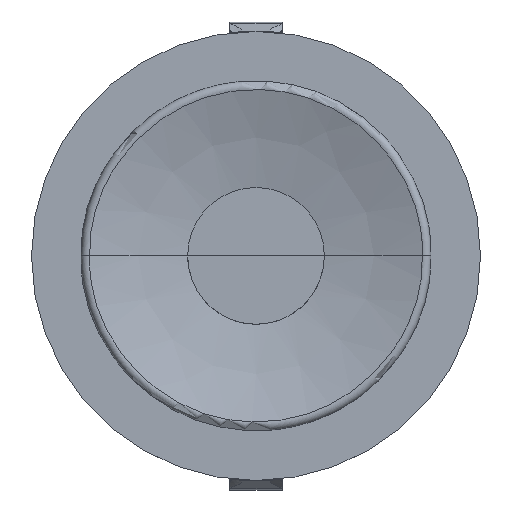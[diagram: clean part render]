
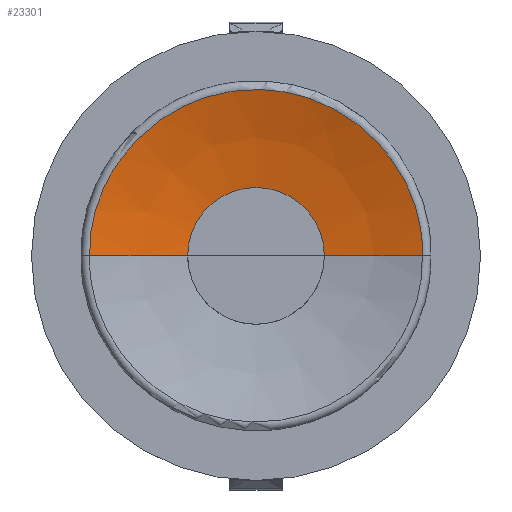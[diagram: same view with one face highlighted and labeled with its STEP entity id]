
A CAD part, top view. The second image highlights one B-rep face of the part: STEP entity #23301.
In plain terms, the highlighted free-form (B-spline) face has degree [2, 2] with [3, 5] control points.
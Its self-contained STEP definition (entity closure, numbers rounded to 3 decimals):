
#48=(
BOUNDED_SURFACE()
B_SPLINE_SURFACE(2,2,((#41128,#41129,#41130,#41131,#41132),(#41133,#41134,
#41135,#41136,#41137),(#41138,#41139,#41140,#41141,#41142)),
 .UNSPECIFIED.,.F.,.F.,.F.)
B_SPLINE_SURFACE_WITH_KNOTS((3,3),(3,2,3),(-1.43,-1.225),
(-3.142,-1.571,0.),
 .UNSPECIFIED.)
GEOMETRIC_REPRESENTATION_ITEM()
RATIONAL_B_SPLINE_SURFACE(((1.,0.707,1.,0.707,1.),
(0.995,0.703,0.995,0.703,
0.995),(1.,0.707,1.,0.707,1.)))
REPRESENTATION_ITEM('')
SURFACE()
);
#185=B_SPLINE_CURVE_WITH_KNOTS('',3,(#41145,#41146,#41147,#41148),
 .UNSPECIFIED.,.F.,.F.,(4,4),(0.,0.2),.UNSPECIFIED.);
#186=B_SPLINE_CURVE_WITH_KNOTS('',3,(#41149,#41150,#41151,#41152,#41153),
 .UNSPECIFIED.,.F.,.F.,(4,1,4),(0.,0.5,1.),.UNSPECIFIED.);
#187=B_SPLINE_CURVE_WITH_KNOTS('',3,(#41155,#41156,#41157,#41158,#41159),
 .UNSPECIFIED.,.F.,.F.,(4,1,4),(0.,0.5,1.),.UNSPECIFIED.);
#188=B_SPLINE_CURVE_WITH_KNOTS('',3,(#41161,#41162,#41163,#41164),
 .UNSPECIFIED.,.F.,.F.,(4,4),(0.8,1.),.UNSPECIFIED.);
#189=B_SPLINE_CURVE_WITH_KNOTS('',3,(#41166,#41167,#41168,#41169),
 .UNSPECIFIED.,.F.,.F.,(4,4),(0.6,0.8),.UNSPECIFIED.);
#190=B_SPLINE_CURVE_WITH_KNOTS('',3,(#41171,#41172,#41173,#41174),
 .UNSPECIFIED.,.F.,.F.,(4,4),(0.4,0.6),.UNSPECIFIED.);
#191=B_SPLINE_CURVE_WITH_KNOTS('',3,(#41175,#41176,#41177,#41178),
 .UNSPECIFIED.,.F.,.F.,(4,4),(0.2,0.4),.UNSPECIFIED.);
#2826=FACE_OUTER_BOUND('',#4550,.T.);
#4550=EDGE_LOOP('',(#19565,#19566,#19567,#19568,#19569,#19570,#19571,#19572));
#6254=CIRCLE('',#26345,10.502);
#10842=VERTEX_POINT('',#41099);
#10843=VERTEX_POINT('',#41100);
#10844=VERTEX_POINT('',#41143);
#10845=VERTEX_POINT('',#41144);
#10846=VERTEX_POINT('',#41154);
#10847=VERTEX_POINT('',#41160);
#10848=VERTEX_POINT('',#41165);
#10849=VERTEX_POINT('',#41170);
#13889=EDGE_CURVE('',#10842,#10843,#6254,.T.);
#13893=EDGE_CURVE('',#10844,#10845,#185,.T.);
#13894=EDGE_CURVE('',#10842,#10844,#186,.T.);
#13895=EDGE_CURVE('',#10846,#10843,#187,.T.);
#13896=EDGE_CURVE('',#10847,#10846,#188,.T.);
#13897=EDGE_CURVE('',#10848,#10847,#189,.T.);
#13898=EDGE_CURVE('',#10849,#10848,#190,.T.);
#13899=EDGE_CURVE('',#10845,#10849,#191,.T.);
#19565=ORIENTED_EDGE('',*,*,#13893,.F.);
#19566=ORIENTED_EDGE('',*,*,#13894,.F.);
#19567=ORIENTED_EDGE('',*,*,#13889,.T.);
#19568=ORIENTED_EDGE('',*,*,#13895,.F.);
#19569=ORIENTED_EDGE('',*,*,#13896,.F.);
#19570=ORIENTED_EDGE('',*,*,#13897,.F.);
#19571=ORIENTED_EDGE('',*,*,#13898,.F.);
#19572=ORIENTED_EDGE('',*,*,#13899,.F.);
#23301=ADVANCED_FACE('',(#2826),#48,.T.);
#26345=AXIS2_PLACEMENT_3D('',#41101,#33233,#33234);
#33233=DIRECTION('center_axis',(0.,0.,
-1.));
#33234=DIRECTION('ref_axis',(1.,0.,0.));
#41099=CARTESIAN_POINT('',(10.502,0.,10.332));
#41100=CARTESIAN_POINT('',(-10.502,0.,10.332));
#41101=CARTESIAN_POINT('Origin',(0.,0.,
10.332));
#41128=CARTESIAN_POINT('Ctrl Pts',(-10.502,0.,
10.332));
#41129=CARTESIAN_POINT('Ctrl Pts',(-10.502,-10.502,10.332));
#41130=CARTESIAN_POINT('Ctrl Pts',(0.,-10.502,
10.332));
#41131=CARTESIAN_POINT('Ctrl Pts',(10.502,-10.502,10.332));
#41132=CARTESIAN_POINT('Ctrl Pts',(10.502,0.,
10.332));
#41133=CARTESIAN_POINT('Ctrl Pts',(-18.268,0.,
11.432));
#41134=CARTESIAN_POINT('Ctrl Pts',(-18.268,-18.268,
11.432));
#41135=CARTESIAN_POINT('Ctrl Pts',(0.,-18.268,
11.432));
#41136=CARTESIAN_POINT('Ctrl Pts',(18.268,-18.268,11.432));
#41137=CARTESIAN_POINT('Ctrl Pts',(18.268,0.,
11.432));
#41138=CARTESIAN_POINT('Ctrl Pts',(-25.647,0.,
14.092));
#41139=CARTESIAN_POINT('Ctrl Pts',(-25.647,-25.647,14.092));
#41140=CARTESIAN_POINT('Ctrl Pts',(0.,-25.647,
14.092));
#41141=CARTESIAN_POINT('Ctrl Pts',(25.647,-25.647,14.092));
#41142=CARTESIAN_POINT('Ctrl Pts',(25.647,0.,
14.092));
#41143=CARTESIAN_POINT('',(25.547,0.,14.056));
#41144=CARTESIAN_POINT('',(20.668,-15.016,14.056));
#41145=CARTESIAN_POINT('Ctrl Pts',(25.547,0.,
14.056));
#41146=CARTESIAN_POINT('Ctrl Pts',(25.736,-5.489,14.056));
#41147=CARTESIAN_POINT('Ctrl Pts',(23.86,-10.73,14.056));
#41148=CARTESIAN_POINT('Ctrl Pts',(20.668,-15.016,14.056));
#41149=CARTESIAN_POINT('Ctrl Pts',(10.502,0.,
10.332));
#41150=CARTESIAN_POINT('Ctrl Pts',(13.073,0.,
10.697));
#41151=CARTESIAN_POINT('Ctrl Pts',(18.151,0.,
11.682));
#41152=CARTESIAN_POINT('Ctrl Pts',(23.103,0.,
13.18));
#41153=CARTESIAN_POINT('Ctrl Pts',(25.547,0.,
14.056));
#41154=CARTESIAN_POINT('',(-25.547,0.,14.056));
#41155=CARTESIAN_POINT('Ctrl Pts',(-25.547,0.,
14.056));
#41156=CARTESIAN_POINT('Ctrl Pts',(-23.103,0.,
13.18));
#41157=CARTESIAN_POINT('Ctrl Pts',(-18.151,0.,
11.682));
#41158=CARTESIAN_POINT('Ctrl Pts',(-13.073,0.,
10.697));
#41159=CARTESIAN_POINT('Ctrl Pts',(-10.502,0.,
10.332));
#41160=CARTESIAN_POINT('',(-20.668,-15.016,14.056));
#41161=CARTESIAN_POINT('Ctrl Pts',(-20.668,-15.016,
14.056));
#41162=CARTESIAN_POINT('Ctrl Pts',(-23.86,-10.73,
14.056));
#41163=CARTESIAN_POINT('Ctrl Pts',(-25.736,-5.489,
14.056));
#41164=CARTESIAN_POINT('Ctrl Pts',(-25.547,0.,
14.056));
#41165=CARTESIAN_POINT('',(-7.894,-24.297,14.056));
#41166=CARTESIAN_POINT('Ctrl Pts',(-7.894,-24.297,
14.056));
#41167=CARTESIAN_POINT('Ctrl Pts',(-12.969,-22.632,14.056));
#41168=CARTESIAN_POINT('Ctrl Pts',(-17.476,-19.302,14.056));
#41169=CARTESIAN_POINT('Ctrl Pts',(-20.668,-15.016,
14.056));
#41170=CARTESIAN_POINT('',(7.894,-24.297,14.056));
#41171=CARTESIAN_POINT('Ctrl Pts',(7.894,-24.297,14.056));
#41172=CARTESIAN_POINT('Ctrl Pts',(2.82,-25.961,14.056));
#41173=CARTESIAN_POINT('Ctrl Pts',(-2.82,-25.961,
14.056));
#41174=CARTESIAN_POINT('Ctrl Pts',(-7.894,-24.297,
14.056));
#41175=CARTESIAN_POINT('Ctrl Pts',(20.668,-15.016,14.056));
#41176=CARTESIAN_POINT('Ctrl Pts',(17.476,-19.302,14.056));
#41177=CARTESIAN_POINT('Ctrl Pts',(12.969,-22.632,14.056));
#41178=CARTESIAN_POINT('Ctrl Pts',(7.894,-24.297,14.056));
